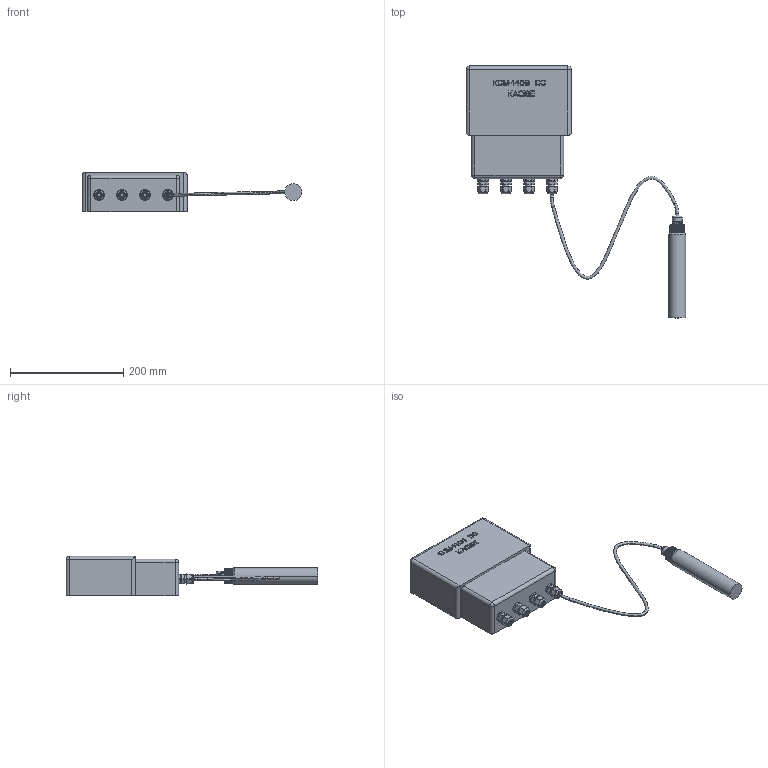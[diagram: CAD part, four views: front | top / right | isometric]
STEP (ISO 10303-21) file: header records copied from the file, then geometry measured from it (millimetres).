
FILE_DESCRIPTION((''),'2;1');
FILE_NAME('ASM0017_ASM','2025-12-30T17:04:26',('28740194'),(''),'CREO PARAMETRIC BY PTC INC, 2024063','CREO PARAMETRIC BY PTC INC, 2024063','');
FILE_SCHEMA(('CONFIG_CONTROL_DESIGN'));
Length unit declared in the file: millimetre
Products named in the file (16): 100; EV214_27005336_DUMMY_MIR; EV214_27005336_02_MIR; EV214_27005336_03_MIR; EV214_27005336_04_MIR; EV214_27005336_06_MIR; EV214_27005336_07_MIR; ASM0003__ASM; 112_ASM; XX; 222; 0011; 26X3-4; 26-3-4_ASM; 333_ASM; ASM0017_ASM
Assembly tree (18 placements, depth 4):
  ASM0017_ASM
    112_ASM
      100
      ASM0003__ASM  x4
        EV214_27005336_DUMMY_MIR
        EV214_27005336_02_MIR
        EV214_27005336_03_MIR
        EV214_27005336_04_MIR
        EV214_27005336_06_MIR
        EV214_27005336_07_MIR
    XX
    333_ASM
      222
      26-3-4_ASM
        0011
        26X3-4
Bounding box: 387.57 x 444.74 x 70.5 mm (x, y, z)
Volume: 2526851.5 mm3; surface area: 174490.5 mm2
Topology: 25 solids, 41 shells, 1486 faces, 4047 edges, 2692 vertices
Faces by surface type: plane 1072, cylinder 317, cone 40, torus 28, bspline 25, sphere 4
Entity records: 29875 total; most frequent: CARTESIAN_POINT 9673, ORIENTED_EDGE 4202, DIRECTION 4001, EDGE_CURVE 2109, VECTOR 1623, LINE 1623, VERTEX_POINT 1396, AXIS2_PLACEMENT_3D 1189
